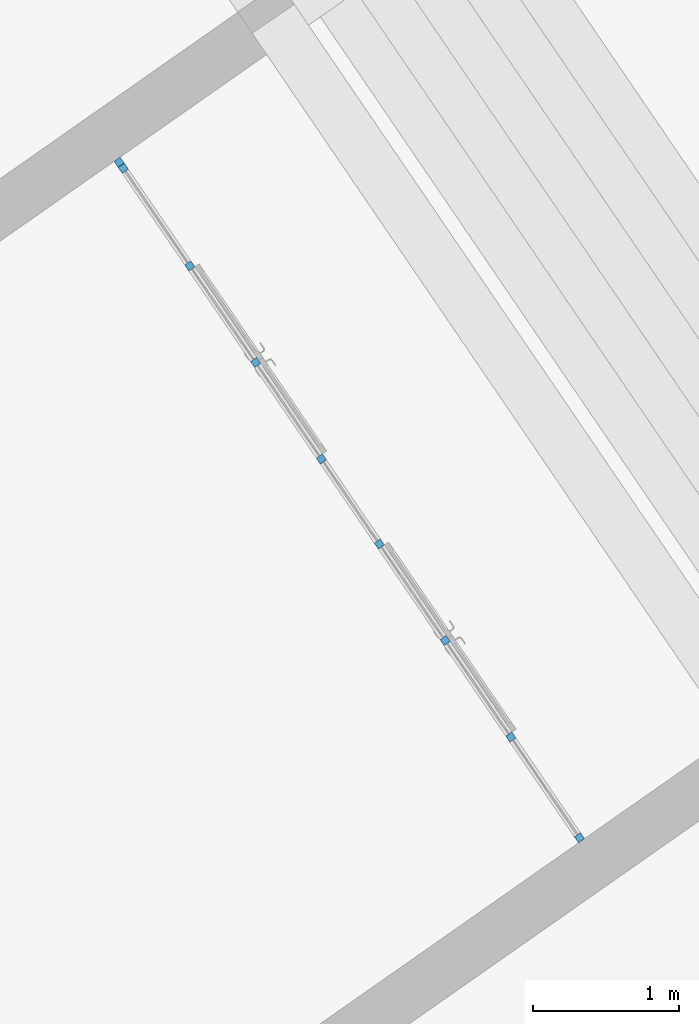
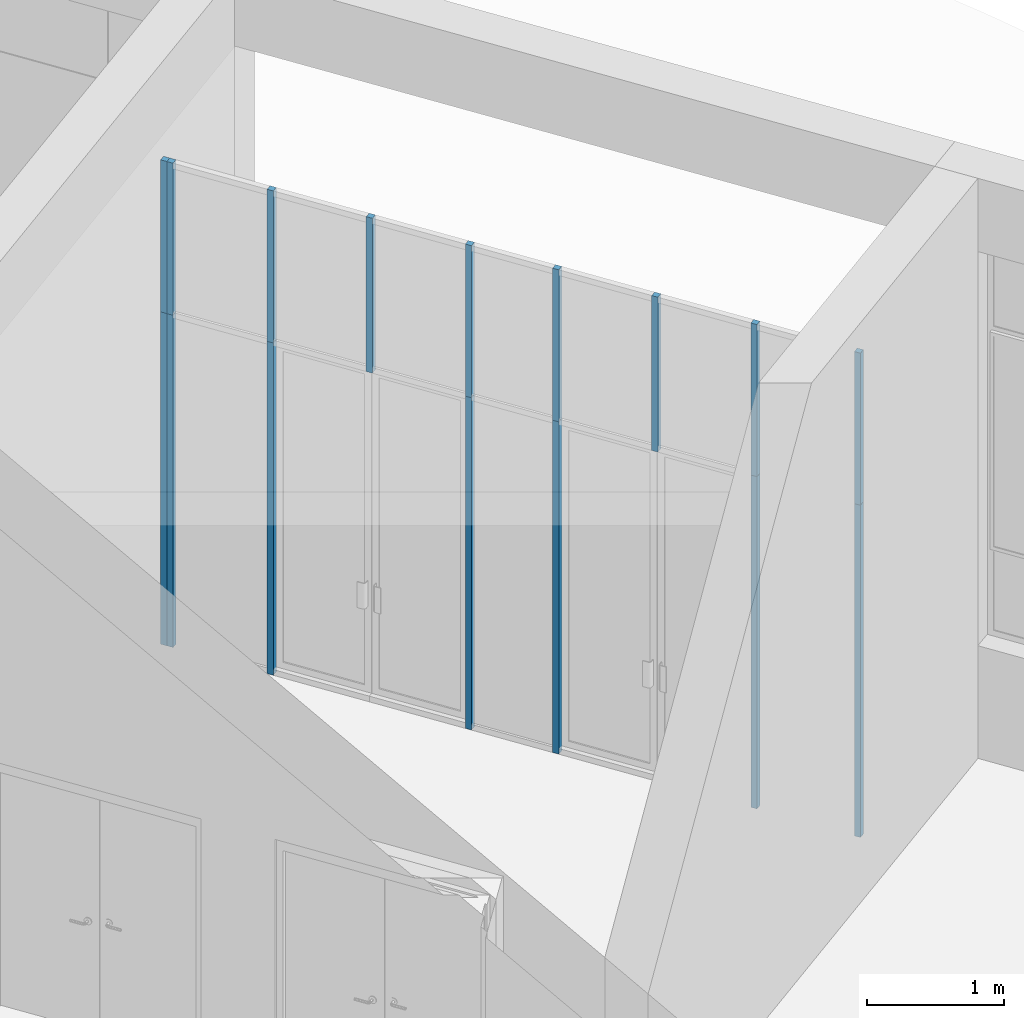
# One storey, part 23 of 157: 16 members, 1 element without a shape of its own.
"""IFC2X3 building model written with IfcOpenShell, lengths in millimetres."""

from ifc_helpers import new_model, entity, si_unit, converted_unit, derived_unit, direction, frame, origin, origin_2d_with_axis, place, context, subcontext, project, spatial, rectangle, extrude, source, transform, mapped, material, type_object, type_shapes, element, aggregate, save


model = new_model("IFC2X3")

# Units and contexts
model_context = context("Model", 3, precision=0.01, world=origin(), true_north=direction((6.123031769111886e-17, 1.0)))
body_context = subcontext(model_context, "Body", "Model", "MODEL_VIEW")
ifc_project = project(units=[si_unit("LENGTHUNIT", "METRE", prefix="MILLI"), si_unit("AREAUNIT", "SQUARE_METRE"), si_unit("VOLUMEUNIT", "CUBIC_METRE"), converted_unit("PLANEANGLEUNIT", "DEGREE", entity("IfcRatioMeasure", 0.017453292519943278), si_unit("PLANEANGLEUNIT", "RADIAN"), dimensions=[0, 0, 0, 0, 0, 0, 0]), si_unit("MASSUNIT", "GRAM", prefix="KILO"), derived_unit("MASSDENSITYUNIT", [(si_unit("MASSUNIT", "GRAM", prefix="KILO"), 1), (si_unit("LENGTHUNIT", "METRE"), -3)]), derived_unit("MOMENTOFINERTIAUNIT", [(si_unit("LENGTHUNIT", "METRE"), 4)]), si_unit("TIMEUNIT", "SECOND"), si_unit("FREQUENCYUNIT", "HERTZ"), si_unit("THERMODYNAMICTEMPERATUREUNIT", "DEGREE_CELSIUS"), derived_unit("THERMALTRANSMITTANCEUNIT", [(si_unit("MASSUNIT", "GRAM", prefix="KILO"), 1), (si_unit("THERMODYNAMICTEMPERATUREUNIT", "KELVIN"), -1), (si_unit("TIMEUNIT", "SECOND"), -3)]), derived_unit("THERMALCONDUCTANCEUNIT", [(si_unit("MASSUNIT", "GRAM", prefix="KILO"), 1), (si_unit("LENGTHUNIT", "METRE"), 1), (si_unit("THERMODYNAMICTEMPERATUREUNIT", "KELVIN"), -1), (si_unit("TIMEUNIT", "SECOND"), -3)]), derived_unit("VOLUMETRICFLOWRATEUNIT", [(si_unit("LENGTHUNIT", "METRE"), 3), (si_unit("TIMEUNIT", "SECOND"), -1)]), derived_unit("MASSFLOWRATEUNIT", [(si_unit("MASSUNIT", "GRAM", prefix="KILO"), 1), (si_unit("TIMEUNIT", "SECOND"), -1)]), derived_unit("ROTATIONALFREQUENCYUNIT", [(si_unit("TIMEUNIT", "SECOND"), -1)]), si_unit("ELECTRICCURRENTUNIT", "AMPERE"), si_unit("ELECTRICVOLTAGEUNIT", "VOLT"), si_unit("POWERUNIT", "WATT"), converted_unit("FORCEUNIT", "KIP", entity("IfcRatioMeasure", 2.088543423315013e-05), si_unit("FORCEUNIT", "NEWTON"), dimensions=[1, 1, -2, 0, 0, 0, 0]), si_unit("ILLUMINANCEUNIT", "LUX"), si_unit("LUMINOUSFLUXUNIT", "LUMEN"), si_unit("LUMINOUSINTENSITYUNIT", "CANDELA"), derived_unit("USERDEFINED", [(si_unit("MASSUNIT", "GRAM", prefix="KILO"), -1), (si_unit("LENGTHUNIT", "METRE"), -2), (si_unit("TIMEUNIT", "SECOND"), 3), (si_unit("LUMINOUSFLUXUNIT", "LUMEN"), 1)]), derived_unit("USERDEFINED", [(si_unit("MASSUNIT", "GRAM", prefix="KILO"), 1), (si_unit("LENGTHUNIT", "METRE"), 3), (si_unit("TIMEUNIT", "SECOND"), -3), (si_unit("ELECTRICCURRENTUNIT", "AMPERE"), -2)]), derived_unit("USERDEFINED", [(si_unit("LENGTHUNIT", "METRE"), 2), (si_unit("TIMEUNIT", "SECOND"), -2)]), derived_unit("SOUNDPOWERUNIT", [(si_unit("MASSUNIT", "GRAM", prefix="KILO"), 1), (si_unit("LENGTHUNIT", "METRE"), 2), (si_unit("TIMEUNIT", "SECOND"), -3)]), derived_unit("SOUNDPRESSUREUNIT", [(si_unit("MASSUNIT", "GRAM", prefix="KILO"), 1), (si_unit("LENGTHUNIT", "METRE"), -1), (si_unit("TIMEUNIT", "SECOND"), -2)]), derived_unit("LINEARVELOCITYUNIT", [(si_unit("LENGTHUNIT", "METRE"), 1), (si_unit("TIMEUNIT", "SECOND"), -1)]), si_unit("PRESSUREUNIT", "PASCAL"), derived_unit("USERDEFINED", [(si_unit("LENGTHUNIT", "METRE"), -2), (si_unit("MASSUNIT", "GRAM", prefix="KILO"), 1), (si_unit("TIMEUNIT", "SECOND"), -2)]), derived_unit("LINEARFORCEUNIT", [(si_unit("MASSUNIT", "GRAM", prefix="KILO"), 1), (si_unit("LENGTHUNIT", "METRE"), 1), (si_unit("TIMEUNIT", "SECOND"), -2), (si_unit("LENGTHUNIT", "METRE"), -1)]), derived_unit("PLANARFORCEUNIT", [(si_unit("MASSUNIT", "GRAM", prefix="KILO"), 1), (si_unit("LENGTHUNIT", "METRE"), 1), (si_unit("TIMEUNIT", "SECOND"), -2), (si_unit("LENGTHUNIT", "METRE"), -2)]), derived_unit("SPECIFICHEATCAPACITYUNIT", [(si_unit("LENGTHUNIT", "METRE"), 2), (si_unit("TIMEUNIT", "SECOND"), -2), (si_unit("THERMODYNAMICTEMPERATUREUNIT", "KELVIN"), -1)]), derived_unit("VAPORPERMEABILITYUNIT", [(si_unit("TIMEUNIT", "SECOND"), 1), (si_unit("LENGTHUNIT", "METRE"), -1)]), derived_unit("DYNAMICVISCOSITYUNIT", [(si_unit("MASSUNIT", "GRAM", prefix="KILO"), 1), (si_unit("LENGTHUNIT", "METRE"), -1), (si_unit("TIMEUNIT", "SECOND"), -1)]), derived_unit("THERMALEXPANSIONCOEFFICIENTUNIT", [(si_unit("THERMODYNAMICTEMPERATUREUNIT", "KELVIN"), -1)])], contexts=[model_context])

# Site, building, storey
site_placement = place(None, frame((0.0, 0.0, 0.0), z_axis=(0.0, 0.0, 1.0), x_axis=(0.8191520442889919, 0.5735764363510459, 0.0)))
site = spatial("IfcSite", under=ifc_project, at=site_placement, Name="Default", CompositionType="ELEMENT")
building_placement = place(site_placement, origin())
building = spatial("IfcBuilding", under=site, at=building_placement, CompositionType="ELEMENT")
storey_placement = place(building_placement, origin())
storey = spatial("IfcBuildingStorey", under=building, at=storey_placement, Name="1.EG +0.00", CompositionType="ELEMENT", Elevation=-4.331468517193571e-12)

# Curtain wall, members
curtain_wall_type = type_object("IfcCurtainWallType", Name="Curtain Wall:Curtain_Wall_CJC_ENTR1", PredefinedType="NOTDEFINED")
curtain_wall_placement = place(storey_placement, origin())
curtain_wall = element("IfcCurtainWall", 1, at=curtain_wall_placement, inside=storey, type_object=curtain_wall_type, Name="Curtain Wall:Curtain_Wall_CJC_ENTR1", ObjectType="Curtain Wall:Curtain_Wall_CJC_ENTR1")
ifc_material = material(Name="Aluminium")
member_type_1 = type_object("IfcMemberType", Name="Rectangular Mullion:5x5", PredefinedType="MULLION", material=ifc_material)
shared_shape_1 = source(origin(), body_context, "Body", "SweptSolid", [
    extrude(rectangle(XDim=50.0, YDim=50.0, at=origin_2d_with_axis()), frame((-25.0, 0.0, -2950.0), z_axis=(0.0, 0.0, 1.0), x_axis=(0.0, -1.0, 0.0)), (0.0, 0.0, 1.0), 2950.0),
])
type_shapes(member_type_1, [shared_shape_1])
member_1_placement = place(curtain_wall_placement, frame((-206349.21932335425, 115521.35891435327, 0.0), z_axis=(0.0, 0.0, -1.0), x_axis=(0.012719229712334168, 0.9999191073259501, 0.0)))
member_1 = element("IfcMember", 2, at=member_1_placement, type_object=member_type_1, material=ifc_material, Name="Rectangular Mullion:5x5", ObjectType="Rectangular Mullion:5x5", context=body_context, shape_type="MappedRepresentation", body=[
    mapped(shared_shape_1, transform((0.0, 0.0, 0.0), scale=1.0)),
])
member_type_2 = type_object("IfcMemberType", Name="Rectangular Mullion:5x5", PredefinedType="MULLION", material=ifc_material)
shared_shape_2 = source(origin(), body_context, "Body", "SweptSolid", [
    extrude(rectangle(XDim=50.0, YDim=50.0, at=origin_2d_with_axis()), frame((-25.0, 0.0, -1350.0), z_axis=(0.0, 0.0, 1.0), x_axis=(0.0, -1.0, 0.0)), (0.0, 0.0, 1.0), 1350.0),
])
type_shapes(member_type_2, [shared_shape_2])
member_2_placement = place(curtain_wall_placement, frame((-206349.21932335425, 115521.35891435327, 2950.0), z_axis=(0.0, 0.0, -1.0), x_axis=(0.012719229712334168, 0.9999191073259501, 0.0)))
member_2 = element("IfcMember", 3, at=member_2_placement, type_object=member_type_2, material=ifc_material, Name="Rectangular Mullion:5x5", ObjectType="Rectangular Mullion:5x5", context=body_context, shape_type="MappedRepresentation", body=[
    mapped(shared_shape_2, transform((0.0, 0.0, 0.0), scale=1.0)),
])
member_type_3 = type_object("IfcMemberType", Name="Rectangular Mullion:5x5", PredefinedType="MULLION", material=ifc_material)
shared_shape_3 = source(origin(), body_context, "Body", "SweptSolid", [
    extrude(rectangle(XDim=50.0, YDim=50.0, at=origin_2d_with_axis()), frame((-25.0, 0.0, -1350.0), z_axis=(0.0, 0.0, 1.0), x_axis=(0.0, -1.0, 0.0)), (0.0, 0.0, 1.0), 1349.9999999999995),
])
type_shapes(member_type_3, [shared_shape_3])
member_3_placement = place(curtain_wall_placement, frame((-206421.08878494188, 109871.35891435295, 4300.0), z_axis=(0.0, 0.0, 1.0), x_axis=(-0.012719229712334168, -0.9999191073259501, 0.0)))
member_3 = element("IfcMember", 4, at=member_3_placement, type_object=member_type_3, material=ifc_material, Name="Rectangular Mullion:5x5", ObjectType="Rectangular Mullion:5x5", context=body_context, shape_type="MappedRepresentation", body=[
    mapped(shared_shape_3, transform((0.0, 0.0, 0.0), scale=1.0)),
])
member_type_4 = type_object("IfcMemberType", Name="Rectangular Mullion:5x5", PredefinedType="MULLION", material=ifc_material)
shared_shape_4 = source(origin(), body_context, "Body", "SweptSolid", [
    extrude(rectangle(XDim=50.0, YDim=50.0, at=origin_2d_with_axis()), frame((-25.0, 0.0, -2950.0), z_axis=(0.0, 0.0, 1.0), x_axis=(0.0, -1.0, 0.0)), (0.0, 0.0, 1.0), 2950.0),
])
type_shapes(member_type_4, [shared_shape_4])
member_4_placement = place(curtain_wall_placement, frame((-206421.08878494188, 109871.35891435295, 2950.0), z_axis=(0.0, 0.0, 1.0), x_axis=(-0.012719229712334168, -0.9999191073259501, 0.0)))
member_4 = element("IfcMember", 5, at=member_4_placement, type_object=member_type_4, material=ifc_material, Name="Rectangular Mullion:5x5", ObjectType="Rectangular Mullion:5x5", context=body_context, shape_type="MappedRepresentation", body=[
    mapped(shared_shape_4, transform((0.0, 0.0, 0.0), scale=1.0)),
])
member_type_5 = type_object("IfcMemberType", Name="Rectangular Mullion:5x5", PredefinedType="MULLION", material=ifc_material)
shared_shape_5 = source(origin(), body_context, "Body", "SweptSolid", [
    extrude(rectangle(XDim=50.0, YDim=50.0, at=origin_2d_with_axis()), frame((0.0, 0.0, -2950.0), z_axis=(0.0, 0.0, 1.0), x_axis=(0.0, -1.0, 0.0)), (0.0, 0.0, 1.0), 2950.0),
])
type_shapes(member_type_5, [shared_shape_5])
member_5_placement = place(curtain_wall_placement, frame((-206350.1790792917, 115445.90793799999, 0.0), z_axis=(0.0, 0.0, -1.0), x_axis=(0.012719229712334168, 0.9999191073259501, 0.0)))
member_5 = element("IfcMember", 6, at=member_5_placement, type_object=member_type_5, material=ifc_material, Name="Rectangular Mullion:5x5", ObjectType="Rectangular Mullion:5x5", context=body_context, shape_type="MappedRepresentation", body=[
    mapped(shared_shape_5, transform((0.0, 0.0, 0.0), scale=1.0)),
])
member_6_placement = place(curtain_wall_placement, frame((-206380.8324228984, 113036.10288934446, 0.0), z_axis=(0.0, 0.0, -1.0), x_axis=(0.012719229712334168, 0.9999191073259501, 0.0)))
member_6 = element("IfcMember", 7, at=member_6_placement, type_object=member_type_5, material=ifc_material, Name="Rectangular Mullion:5x5", ObjectType="Rectangular Mullion:5x5", context=body_context, shape_type="MappedRepresentation", body=[
    mapped(shared_shape_5, transform((0.0, 0.0, 0.0), scale=1.0)),
])
member_7_placement = place(curtain_wall_placement, frame((-206389.79947984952, 112331.15991837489, 0.0), z_axis=(0.0, 0.0, -1.0), x_axis=(0.012719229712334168, 0.9999191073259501, 0.0)))
member_7 = element("IfcMember", 8, at=member_7_placement, type_object=member_type_5, material=ifc_material, Name="Rectangular Mullion:5x5", ObjectType="Rectangular Mullion:5x5", context=body_context, shape_type="MappedRepresentation", body=[
    mapped(shared_shape_5, transform((0.0, 0.0, 0.0), scale=1.0)),
])
member_8_placement = place(curtain_wall_placement, frame((-206410.15024738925, 110731.28934665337, 0.0), z_axis=(0.0, 0.0, -1.0), x_axis=(0.012719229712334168, 0.9999191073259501, 0.0)))
member_8 = element("IfcMember", 9, at=member_8_placement, type_object=member_type_5, material=ifc_material, Name="Rectangular Mullion:5x5", ObjectType="Rectangular Mullion:5x5", context=body_context, shape_type="MappedRepresentation", body=[
    mapped(shared_shape_5, transform((0.0, 0.0, 0.0), scale=1.0)),
])
member_9_placement = place(curtain_wall_placement, frame((-206360.48165535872, 114635.97346106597, 0.0), z_axis=(0.0, 0.0, -1.0), x_axis=(0.012719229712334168, 0.9999191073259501, 0.0)))
member_9 = element("IfcMember", 10, at=member_9_placement, type_object=member_type_5, material=ifc_material, Name="Rectangular Mullion:5x5", ObjectType="Rectangular Mullion:5x5", context=body_context, shape_type="MappedRepresentation", body=[
    mapped(shared_shape_5, transform((0.0, 0.0, 0.0), scale=1.0)),
])
member_type_6 = type_object("IfcMemberType", Name="Rectangular Mullion:5x5", PredefinedType="MULLION", material=ifc_material)
shared_shape_6 = source(origin(), body_context, "Body", "SweptSolid", [
    extrude(rectangle(XDim=50.0, YDim=50.0, at=origin_2d_with_axis()), frame((0.0, 0.0, -1375.0), z_axis=(0.0, 0.0, 1.0), x_axis=(0.0, -1.0, 0.0)), (0.0, 0.0, 1.0), 1375.0000000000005),
])
type_shapes(member_type_6, [shared_shape_6])
member_10_placement = place(curtain_wall_placement, frame((-206370.6570391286, 113836.03817520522, 2925.0), z_axis=(0.0, 0.0, -1.0), x_axis=(0.012719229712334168, 0.9999191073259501, 0.0)))
member_10 = element("IfcMember", 11, at=member_10_placement, type_object=member_type_6, material=ifc_material, Name="Rectangular Mullion:5x5", ObjectType="Rectangular Mullion:5x5", context=body_context, shape_type="MappedRepresentation", body=[
    mapped(shared_shape_6, transform((0.0, 0.0, 0.0), scale=1.0)),
])
member_11_placement = place(curtain_wall_placement, frame((-206399.9748636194, 111531.22463251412, 2925.0), z_axis=(0.0, 0.0, -1.0), x_axis=(0.012719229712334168, 0.9999191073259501, 0.0)))
member_11 = element("IfcMember", 12, at=member_11_placement, type_object=member_type_6, material=ifc_material, Name="Rectangular Mullion:5x5", ObjectType="Rectangular Mullion:5x5", context=body_context, shape_type="MappedRepresentation", body=[
    mapped(shared_shape_6, transform((0.0, 0.0, 0.0), scale=1.0)),
])
member_type_7 = type_object("IfcMemberType", Name="Rectangular Mullion:5x5", PredefinedType="MULLION", material=ifc_material)
shared_shape_7 = source(origin(), body_context, "Body", "SweptSolid", [
    extrude(rectangle(XDim=50.0, YDim=50.0, at=origin_2d_with_axis()), frame((0.0, 0.0, -1350.0), z_axis=(0.0, 0.0, 1.0), x_axis=(0.0, -1.0, 0.0)), (0.0, 0.0, 1.0), 1350.0),
])
type_shapes(member_type_7, [shared_shape_7])
member_12_placement = place(curtain_wall_placement, frame((-206360.48165535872, 114635.97346106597, 2950.0), z_axis=(0.0, 0.0, -1.0), x_axis=(0.012719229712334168, 0.9999191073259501, 0.0)))
member_12 = element("IfcMember", 13, at=member_12_placement, type_object=member_type_7, material=ifc_material, Name="Rectangular Mullion:5x5", ObjectType="Rectangular Mullion:5x5", context=body_context, shape_type="MappedRepresentation", body=[
    mapped(shared_shape_7, transform((0.0, 0.0, 0.0), scale=1.0)),
])
member_13_placement = place(curtain_wall_placement, frame((-206350.1790792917, 115445.90793799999, 2950.0), z_axis=(0.0, 0.0, -1.0), x_axis=(0.012719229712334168, 0.9999191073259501, 0.0)))
member_13 = element("IfcMember", 14, at=member_13_placement, type_object=member_type_7, material=ifc_material, Name="Rectangular Mullion:5x5", ObjectType="Rectangular Mullion:5x5", context=body_context, shape_type="MappedRepresentation", body=[
    mapped(shared_shape_7, transform((0.0, 0.0, 0.0), scale=1.0)),
])
member_14_placement = place(curtain_wall_placement, frame((-206380.8324228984, 113036.10288934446, 2950.0), z_axis=(0.0, 0.0, -1.0), x_axis=(0.012719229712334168, 0.9999191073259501, 0.0)))
member_14 = element("IfcMember", 15, at=member_14_placement, type_object=member_type_7, material=ifc_material, Name="Rectangular Mullion:5x5", ObjectType="Rectangular Mullion:5x5", context=body_context, shape_type="MappedRepresentation", body=[
    mapped(shared_shape_7, transform((0.0, 0.0, 0.0), scale=1.0)),
])
member_15_placement = place(curtain_wall_placement, frame((-206389.79947984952, 112331.15991837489, 2950.0), z_axis=(0.0, 0.0, -1.0), x_axis=(0.012719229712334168, 0.9999191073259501, 0.0)))
member_15 = element("IfcMember", 16, at=member_15_placement, type_object=member_type_7, material=ifc_material, Name="Rectangular Mullion:5x5", ObjectType="Rectangular Mullion:5x5", context=body_context, shape_type="MappedRepresentation", body=[
    mapped(shared_shape_7, transform((0.0, 0.0, 0.0), scale=1.0)),
])
member_16_placement = place(curtain_wall_placement, frame((-206410.15024738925, 110731.28934665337, 2950.0), z_axis=(0.0, 0.0, -1.0), x_axis=(0.012719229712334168, 0.9999191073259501, 0.0)))
member_16 = element("IfcMember", 17, at=member_16_placement, type_object=member_type_7, material=ifc_material, Name="Rectangular Mullion:5x5", ObjectType="Rectangular Mullion:5x5", context=body_context, shape_type="MappedRepresentation", body=[
    mapped(shared_shape_7, transform((0.0, 0.0, 0.0), scale=1.0)),
])
aggregate(curtain_wall, [member_1, member_2, member_3, member_4, member_5, member_10, member_12, member_13, member_6, member_7, member_8, member_14, member_15, member_11, member_16, member_9])

save(model, "model.ifc")
